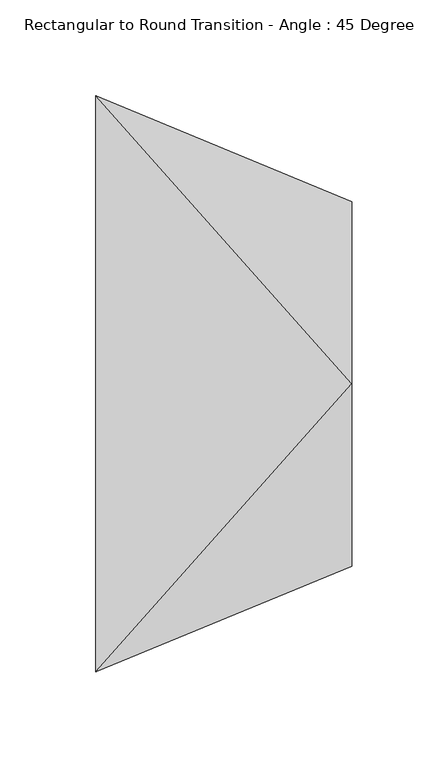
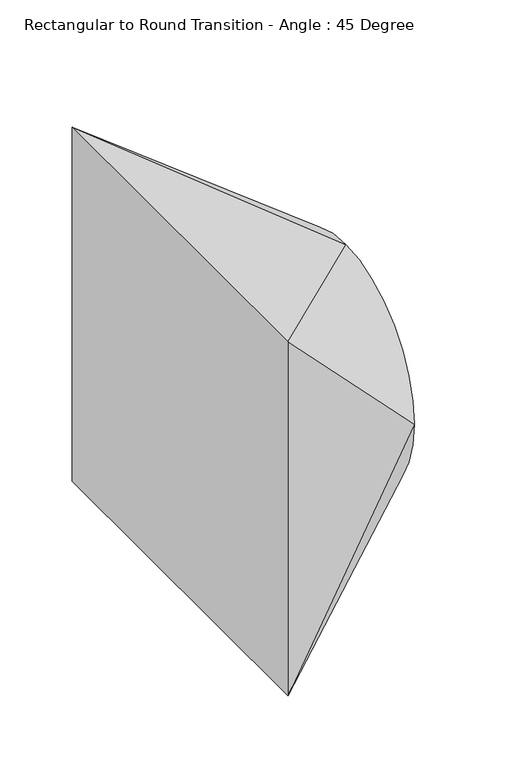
"""IFC4 building model written with IfcOpenShell, lengths in millimetres: duct fitting geometry, Rectangular to Round Transition - Angle : 45 Degree."""

from ifc_helpers import new_model, si_unit, frame, origin, place, context, project, spatial, circle_curve, source, transform, mapped, element, save
from ifc_brep_helpers import plane_surface, spline_surface, advanced_brep


def rectangular_to_round_transition_angle_45_degree_6939472c(model_context):
    return source(origin(), model_context, "Body", "AdvancedBrep", [
        advanced_brep(
        [(133.2002096, 0.0, 94.8266667), (133.2002096, -94.8266667, 0.0), (133.2002096, 0.0, -94.8266667), (133.2002096, 94.8266667, 0.0), (0.0, -150.0, 150.0), (0.0, 150.0, 150.0), (0.0, 150.0, -150.0), (0.0, -150.0, -150.0)],
        [
            (0, 1, circle_curve(frame((133.2002096, 0.0, 0.0), z_axis=(1.0, 0.0, 0.0), x_axis=(0.0, 1.0, 0.0)), 94.8266667)),
            (1, 2, circle_curve(frame((133.2002096, 0.0, 0.0), z_axis=(1.0, 0.0, 0.0), x_axis=(0.0, 1.0, 0.0)), 94.8266667)),
            (2, 3, circle_curve(frame((133.2002096, 0.0, 0.0), z_axis=(1.0, 0.0, 0.0), x_axis=(0.0, 1.0, 0.0)), 94.8266667)),
            (3, 0, circle_curve(frame((133.2002096, 0.0, 0.0), z_axis=(1.0, 0.0, 0.0), x_axis=(0.0, 1.0, 0.0)), 94.8266667)),
            (4, 5),
            (5, 6),
            (6, 7),
            (7, 4),
            (0, 4),
            (4, 1),
            (7, 1),
            (7, 2),
            (6, 2),
            (6, 3),
            (5, 3),
            (5, 0),
        ],
        [
            plane_surface(frame((133.2002096, 0.0, 0.0), z_axis=(1.0, 0.0, 0.0), x_axis=(0.0, 0.0, -1.0))),
            plane_surface(frame((0.0, 0.0, 0.0), z_axis=(-1.0, 0.0, 0.0), x_axis=(0.0, 0.0, -1.0))),
            spline_surface(2, 1, [[(0.0, -150.0, 150.0), (133.2002096, 0.0, 94.8266667)], [(0.0, -150.0, 150.0), (133.2002096, -94.8266667, 94.8266667)], [(0.0, -150.0, 150.0), (133.2002096, -94.8266667, 0.0)]], [3, 3], [2, 2], [0.0, 1.0], [0.0, 1.0], weights=[[1.0, 1.0], [0.7071067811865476, 0.7071067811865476], [1.0, 1.0]]),
            plane_surface(frame((0.0, -150.0, 0.0), z_axis=(0.38268343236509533, -0.9238795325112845, 0.0), x_axis=(0.0, 0.0, -1.0))),
            spline_surface(2, 1, [[(0.0, -150.0, -150.0), (133.2002096, -94.8266667, 0.0)], [(0.0, -150.0, -150.0), (133.2002096, -94.8266667, -94.8266667)], [(0.0, -150.0, -150.0), (133.2002096, 0.0, -94.8266667)]], [3, 3], [2, 2], [0.0, 1.0], [0.0, 1.0], weights=[[1.0, 1.0], [0.7071067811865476, 0.7071067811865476], [1.0, 1.0]]),
            plane_surface(frame((0.0, 0.0, -150.0), z_axis=(0.382683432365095, 0.0, -0.9238795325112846), x_axis=(0.0, 1.0, 0.0))),
            spline_surface(2, 1, [[(0.0, 150.0, -150.0), (133.2002096, 0.0, -94.8266667)], [(0.0, 150.0, -150.0), (133.2002096, 94.8266667, -94.8266667)], [(0.0, 150.0, -150.0), (133.2002096, 94.8266667, 0.0)]], [3, 3], [2, 2], [0.0, 1.0], [0.0, 1.0], weights=[[1.0, 1.0], [0.7071067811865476, 0.7071067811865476], [1.0, 1.0]]),
            plane_surface(frame((0.0, 150.0, 0.0), z_axis=(0.38268343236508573, 0.9238795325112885, 0.0), x_axis=(0.0, 0.0, 1.0))),
            spline_surface(2, 1, [[(0.0, 150.0, 150.0), (133.2002096, 94.8266667, 0.0)], [(0.0, 150.0, 150.0), (133.2002096, 94.8266667, 94.8266667)], [(0.0, 150.0, 150.0), (133.2002096, 0.0, 94.8266667)]], [3, 3], [2, 2], [0.0, 1.0], [0.0, 1.0], weights=[[1.0, 1.0], [0.7071067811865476, 0.7071067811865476], [1.0, 1.0]]),
            plane_surface(frame((0.0, 0.0, 150.0), z_axis=(0.38268343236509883, 0.0, 0.9238795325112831), x_axis=(0.0, -1.0, 0.0))),
        ],
        [
            (0, [[1, 2, 3, 4]]),
            (1, [[5, 6, 7, 8]]),
            (2, [[-1, 9, 10]]),
            (3, [[-8, 11, -10]]),
            (4, [[-2, -11, 12]]),
            (5, [[-7, 13, -12]]),
            (6, [[-3, -13, 14]]),
            (7, [[-6, 15, -14]]),
            (8, [[-4, -15, 16]]),
            (9, [[-5, -9, -16]]),
        ],
    ),
    ])


if __name__ == "__main__":
    model = new_model("IFC4")
    model_context = context("Model", 3, world=origin())
    ifc_project = project(units=[si_unit("LENGTHUNIT", "METRE", prefix="MILLI")], contexts=[model_context])
    site = spatial("IfcSite", under=ifc_project)
    building = spatial("IfcBuilding", under=site)
    placement = place(None, origin())
    rectangular_to_round_transition_angle_45_degree_shape = rectangular_to_round_transition_angle_45_degree_6939472c(model_context)
    element("IfcDuctFitting", 1, ObjectType="Rectangular to Round Transition - Angle : 45 Degree", at=placement, inside=building, context=model_context, shape_type="MappedRepresentation", body=[
        mapped(rectangular_to_round_transition_angle_45_degree_shape, transform((0.0, 0.0, 0.0), x_axis=(1.0, 0.0, 0.0), y_axis=(0.0, 1.0, 0.0), z_axis=(0.0, 0.0, 1.0))),
    ])
    save(model, "model.ifc")
